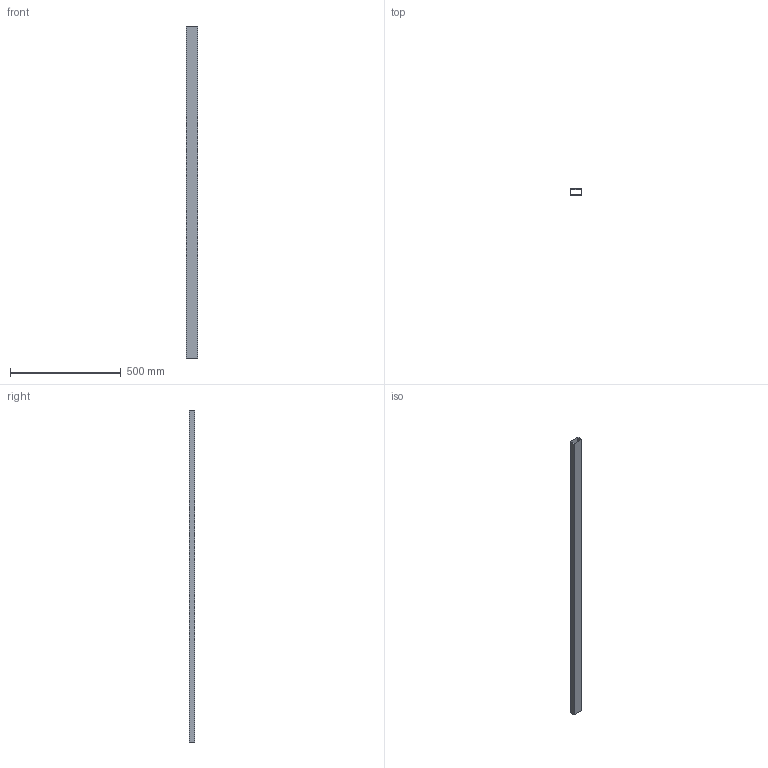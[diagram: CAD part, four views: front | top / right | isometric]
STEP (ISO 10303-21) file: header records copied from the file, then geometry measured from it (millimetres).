
FILE_DESCRIPTION (( 'STEP AP203' ), '1' );
FILE_NAME ('25X50X1500(281754).STEP', '2019-09-17T02:40:58', ( '' ), ( '' ), 'SwSTEP 2.0', 'SolidWorks 2018', '' );
FILE_SCHEMA (( 'CONFIG_CONTROL_DESIGN' ));
Length unit declared in the file: millimetre
Products named in the file (2): 25X50X1500(281754)
Bounding box: 50 x 25 x 1500 mm (x, y, z)
Volume: 176160 mm3; surface area: 440634.9 mm2
Topology: 1 solids, 1 shells, 10 faces, 24 edges, 16 vertices
Faces by surface type: plane 10
Entity records: 447 total; most frequent: CARTESIAN_POINT 52, DIRECTION 48, ORIENTED_EDGE 48, LINE 24, VECTOR 24, EDGE_CURVE 24, VERTEX_POINT 16, PERSON_AND_ORGANIZATION 16
